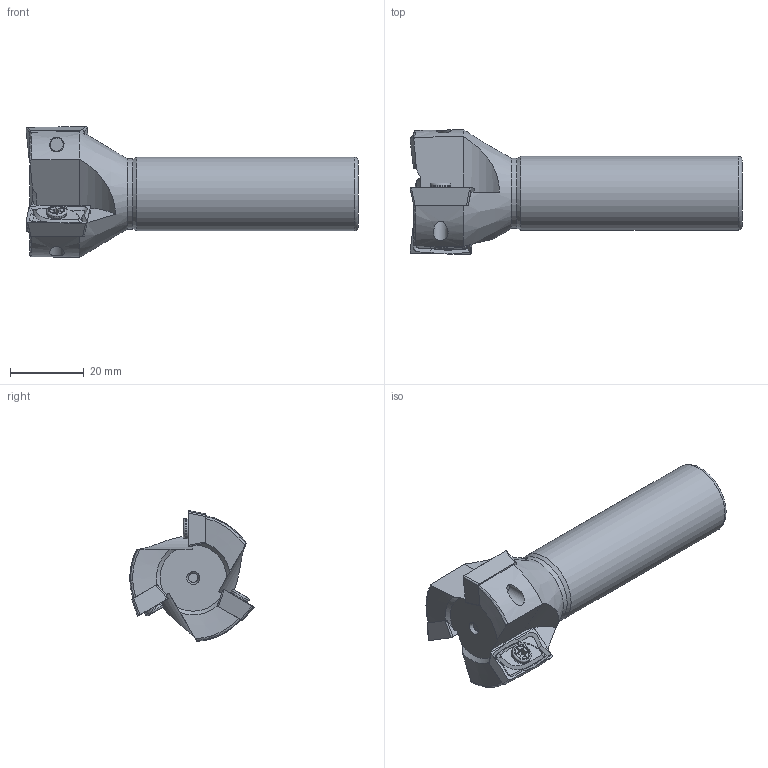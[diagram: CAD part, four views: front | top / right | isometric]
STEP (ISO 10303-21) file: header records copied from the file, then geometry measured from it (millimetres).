
FILE_DESCRIPTION(/* description */ (''),/* implementation_level */ '2;1');
FILE_NAME(/* name */ 'Z:\Проектный отдел\Арина\Фрезы\EAP400R-c20-36-90-3T\EAP400R-c20-36-90-3T.stp',/* time_stamp */ '2023-05-30T16:01:38+03:00',/* author */ ('user'),/* organization */ (''),/* preprocessor_version */ 'ST-DEVELOPER v18',/* originating_system */ 'Autodesk Inventor 2020',/* authorisation */ '');
FILE_SCHEMA (('AUTOMOTIVE_DESIGN { 1 0 10303 214 3 1 1 }'));
Length unit declared in the file: millimetre
Products named in the file (4): EAP400R-c20-36-90-3T; авампы; Напайка; болт
Assembly tree (7 placements, depth 2):
  EAP400R-c20-36-90-3T
    авампы
    Напайка  x3
    болт  x3
Bounding box: 90 x 33.79 x 35.51 mm (x, y, z)
Volume: 33807.6 mm3; surface area: 10215.8 mm2
Topology: 7 solids, 7 shells, 213 faces, 562 edges, 378 vertices
Faces by surface type: plane 98, bspline 48, cylinder 40, cone 20, torus 7
Full cylindrical faces by diameter (mm): 2.5 x1, 3 x1, 4 x9, 4.2 x3, 5.5 x6, 19 x1, 20 x1
Entity records: 4614 total; most frequent: CARTESIAN_POINT 1884, ORIENTED_EDGE 572, DIRECTION 500, EDGE_CURVE 286, AXIS2_PLACEMENT_3D 198, VERTEX_POINT 194, EDGE_LOOP 120, FACE_OUTER_BOUND 105
